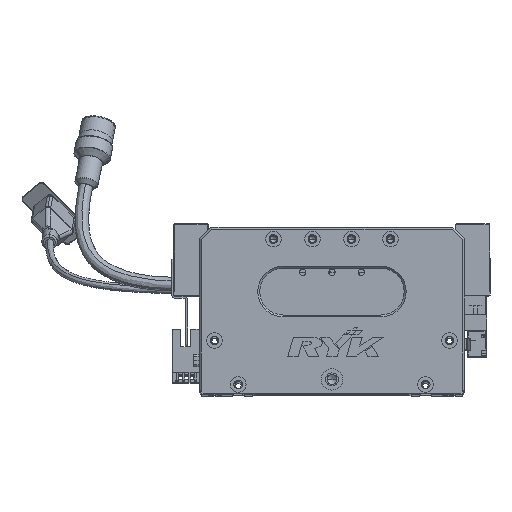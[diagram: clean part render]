
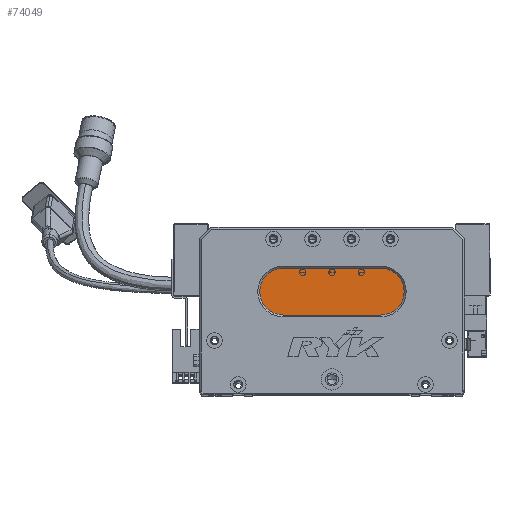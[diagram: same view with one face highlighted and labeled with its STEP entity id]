
A CAD part, top view. The second image highlights one B-rep face of the part: STEP entity #74049.
In plain terms, the highlighted planar face has unit normal (0, 0, 1) as drawn and (0, 0, -1) by its records, which use the part's own axes.
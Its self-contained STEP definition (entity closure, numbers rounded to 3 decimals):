
#3650 = EDGE_CURVE ( 'NONE', #18555, #17772, #15206, .T. ) ;
#3983 = EDGE_CURVE ( 'NONE', #17772, #19357, #10714, .T. ) ;
#6704 = AXIS2_PLACEMENT_3D ( 'NONE', #44155, #67120, #9746 ) ;
#8879 = VERTEX_POINT ( 'NONE', #21475 ) ;
#9741 = VECTOR ( 'NONE', #57737, 1000. ) ;
#9746 = DIRECTION ( 'NONE',  ( -1., 0., 0. ) ) ;
#10714 = CIRCLE ( 'NONE', #64085, 12. ) ;
#12040 = CARTESIAN_POINT ( 'NONE',  ( 93., 40., 13. ) ) ;
#15206 = CIRCLE ( 'NONE', #6704, 12. ) ;
#15460 = CARTESIAN_POINT ( 'NONE',  ( 93., 64., 13. ) ) ;
#16083 = PLANE ( 'NONE',  #35309 ) ;
#17772 = VERTEX_POINT ( 'NONE', #34831 ) ;
#18555 = VERTEX_POINT ( 'NONE', #36244 ) ;
#18842 = VERTEX_POINT ( 'NONE', #50182 ) ;
#19357 = VERTEX_POINT ( 'NONE', #60370 ) ;
#19364 = DIRECTION ( 'NONE',  ( 0., 0., -1. ) ) ;
#19612 = CARTESIAN_POINT ( 'NONE',  ( 43., 52., 13. ) ) ;
#20939 = DIRECTION ( 'NONE',  ( -1., 0., 0. ) ) ;
#21435 = EDGE_CURVE ( 'NONE', #19357, #18842, #36463, .T. ) ;
#21475 = CARTESIAN_POINT ( 'NONE',  ( 93., 40., 13. ) ) ;
#23787 = EDGE_LOOP ( 'NONE', ( #68854, #30171, #49972, #30522, #57242 ) ) ;
#23938 = VECTOR ( 'NONE', #26465, 1000. ) ;
#25374 = DIRECTION ( 'NONE',  ( -1., 0., 0. ) ) ;
#26465 = DIRECTION ( 'NONE',  ( 1., 0., 0. ) ) ;
#30171 = ORIENTED_EDGE ( 'NONE', *, *, #32004, .T. ) ;
#30522 = ORIENTED_EDGE ( 'NONE', *, *, #3983, .T. ) ;
#32004 = EDGE_CURVE ( 'NONE', #8879, #18555, #69536, .T. ) ;
#32614 = CARTESIAN_POINT ( 'NONE',  ( 93., 52., 13. ) ) ;
#32689 = CARTESIAN_POINT ( 'NONE',  ( 93., 52., 13. ) ) ;
#34106 = AXIS2_PLACEMENT_3D ( 'NONE', #32689, #38146, #20939 ) ;
#34831 = CARTESIAN_POINT ( 'NONE',  ( 31., 52., 13. ) ) ;
#35309 = AXIS2_PLACEMENT_3D ( 'NONE', #32614, #72552, #55811 ) ;
#36244 = CARTESIAN_POINT ( 'NONE',  ( 43., 40., 13. ) ) ;
#36463 = LINE ( 'NONE', #15460, #23938 ) ;
#38146 = DIRECTION ( 'NONE',  ( 0., 0., -1. ) ) ;
#38388 = CIRCLE ( 'NONE', #34106, 12. ) ;
#40775 = EDGE_CURVE ( 'NONE', #18842, #8879, #38388, .T. ) ;
#44155 = CARTESIAN_POINT ( 'NONE',  ( 43., 52., 13. ) ) ;
#49972 = ORIENTED_EDGE ( 'NONE', *, *, #3650, .T. ) ;
#50182 = CARTESIAN_POINT ( 'NONE',  ( 93., 64., 13. ) ) ;
#55811 = DIRECTION ( 'NONE',  ( -1., 0., 0. ) ) ;
#57242 = ORIENTED_EDGE ( 'NONE', *, *, #21435, .T. ) ;
#57737 = DIRECTION ( 'NONE',  ( -1., 0., 0. ) ) ;
#60370 = CARTESIAN_POINT ( 'NONE',  ( 43., 64., 13. ) ) ;
#60599 = FACE_OUTER_BOUND ( 'NONE', #23787, .T. ) ;
#64085 = AXIS2_PLACEMENT_3D ( 'NONE', #19612, #19364, #25374 ) ;
#67120 = DIRECTION ( 'NONE',  ( 0., 0., -1. ) ) ;
#68854 = ORIENTED_EDGE ( 'NONE', *, *, #40775, .T. ) ;
#69536 = LINE ( 'NONE', #12040, #9741 ) ;
#72552 = DIRECTION ( 'NONE',  ( 0., 0., -1. ) ) ;
#74049 = ADVANCED_FACE ( 'NONE', ( #60599 ), #16083, .T. ) ;
